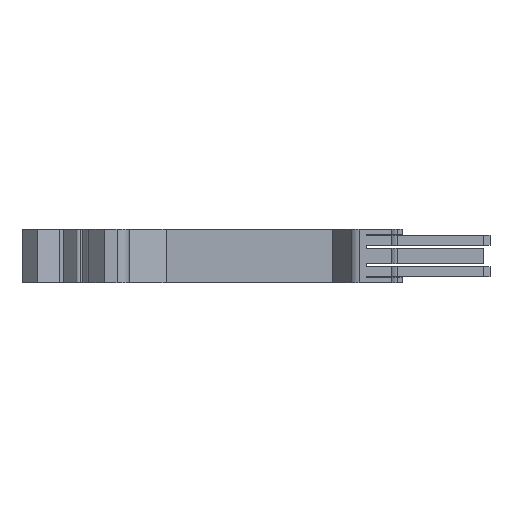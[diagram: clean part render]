
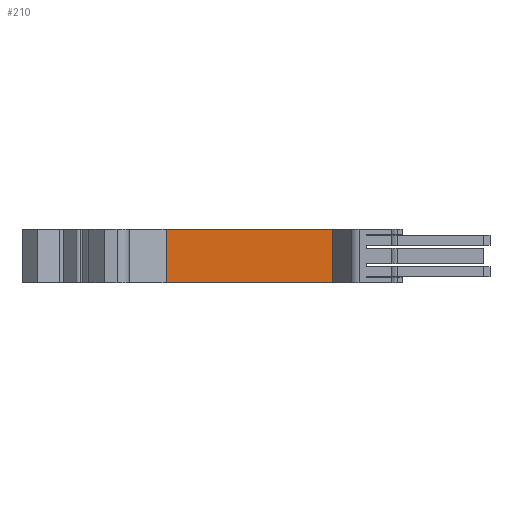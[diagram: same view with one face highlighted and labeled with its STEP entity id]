
A CAD part, left-side view. The second image highlights one B-rep face of the part: STEP entity #210.
In plain terms, the highlighted planar face has unit normal (-1, 0, 0).
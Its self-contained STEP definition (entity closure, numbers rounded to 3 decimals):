
#210=ADVANCED_FACE('',(#565),#390,.F.);
#390=PLANE('',#4057);
#565=FACE_OUTER_BOUND('',#750,.T.);
#750=EDGE_LOOP('',(#1322,#1323,#1324,#1325));
#1322=ORIENTED_EDGE('',*,*,#2697,.F.);
#1323=ORIENTED_EDGE('',*,*,#2698,.T.);
#1324=ORIENTED_EDGE('',*,*,#2699,.T.);
#1325=ORIENTED_EDGE('',*,*,#2695,.F.);
#2260=VERTEX_POINT('',#5776);
#2261=VERTEX_POINT('',#5778);
#2262=VERTEX_POINT('',#5782);
#2263=VERTEX_POINT('',#5784);
#2695=EDGE_CURVE('',#2260,#2261,#3224,.T.);
#2697=EDGE_CURVE('',#2262,#2260,#3226,.T.);
#2698=EDGE_CURVE('',#2262,#2263,#3227,.T.);
#2699=EDGE_CURVE('',#2263,#2261,#3228,.T.);
#3224=LINE('',#5777,#3731);
#3226=LINE('',#5781,#3733);
#3227=LINE('',#5783,#3734);
#3228=LINE('',#5785,#3735);
#3731=VECTOR('',#4656,1.);
#3733=VECTOR('',#4660,1.);
#3734=VECTOR('',#4661,1.);
#3735=VECTOR('',#4662,1.);
#4057=AXIS2_PLACEMENT_3D('',#5786,#4663,#4664);
#4656=DIRECTION('',(0.,0.,1.));
#4660=DIRECTION('',(0.,1.,0.));
#4661=DIRECTION('',(0.,0.,1.));
#4662=DIRECTION('',(0.,1.,0.));
#4663=DIRECTION('',(1.,0.,0.));
#4664=DIRECTION('',(0.,0.,1.));
#5776=CARTESIAN_POINT('',(6771.631,2127.156,-5.2));
#5777=CARTESIAN_POINT('',(6771.631,2127.156,-21.));
#5778=CARTESIAN_POINT('',(6771.631,2127.156,0.));
#5781=CARTESIAN_POINT('',(6771.631,2110.856,-5.2));
#5782=CARTESIAN_POINT('',(6771.631,2110.856,-5.2));
#5783=CARTESIAN_POINT('',(6771.631,2110.856,-21.));
#5784=CARTESIAN_POINT('',(6771.631,2110.856,0.));
#5785=CARTESIAN_POINT('',(6771.631,2110.856,0.));
#5786=CARTESIAN_POINT('',(6771.631,2110.856,-21.));
